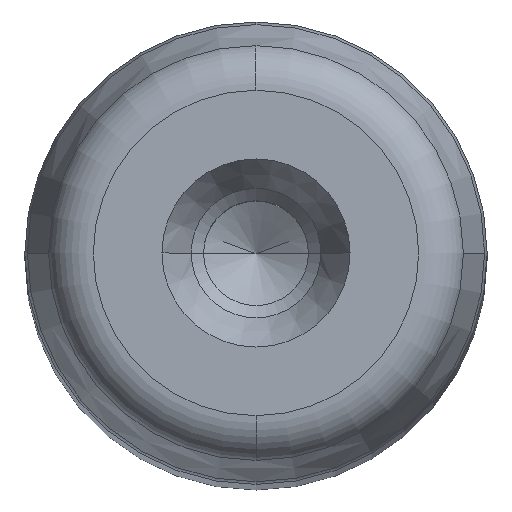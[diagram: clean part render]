
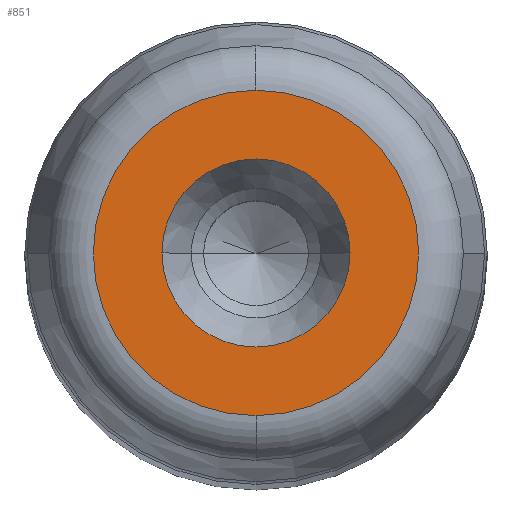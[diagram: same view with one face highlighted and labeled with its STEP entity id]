
A CAD part, top view. The second image highlights one B-rep face of the part: STEP entity #851.
In plain terms, the highlighted planar face has unit normal (0, 0, 1) as drawn and (0, 1, 0) by its records, which use the part's own axes.
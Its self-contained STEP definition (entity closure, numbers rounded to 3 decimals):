
#281=CARTESIAN_POINT('',(6.1,220.0,0.0));
#282=VERTEX_POINT('',#281);
#289=CARTESIAN_POINT('',(-6.1,220.0,0.));
#290=VERTEX_POINT('',#289);
#291=CARTESIAN_POINT('',(0.0,220.0,0.0));
#292=DIRECTION('',(0.0,1.0,0.0));
#293=DIRECTION('',(1.0,0.0,0.0));
#294=AXIS2_PLACEMENT_3D('',#291,#292,#293);
#295=CIRCLE('',#294,6.1);
#296=EDGE_CURVE('',#282,#290,#295,.T.);
#313=CARTESIAN_POINT('',(0.0,220.0,10.554));
#314=VERTEX_POINT('',#313);
#324=CARTESIAN_POINT('',(0.,220.0,-10.554));
#325=VERTEX_POINT('',#324);
#326=CARTESIAN_POINT('',(0.0,220.0,0.0));
#327=DIRECTION('',(0.0,1.0,0.0));
#328=DIRECTION('',(1.0,0.0,0.0));
#329=AXIS2_PLACEMENT_3D('',#326,#327,#328);
#330=CIRCLE('',#329,10.554);
#331=EDGE_CURVE('',#325,#314,#330,.T.);
#812=CARTESIAN_POINT('',(10.554,220.0,0.0));
#813=VERTEX_POINT('',#812);
#814=CARTESIAN_POINT('',(0.0,220.0,0.0));
#815=DIRECTION('',(0.0,1.0,0.0));
#816=DIRECTION('',(1.0,0.0,0.0));
#817=AXIS2_PLACEMENT_3D('',#814,#815,#816);
#818=CIRCLE('',#817,10.554);
#819=EDGE_CURVE('',#813,#325,#818,.T.);
#821=CARTESIAN_POINT('',(0.0,220.0,0.0));
#822=DIRECTION('',(0.0,1.0,0.0));
#823=DIRECTION('',(1.0,0.0,0.0));
#824=AXIS2_PLACEMENT_3D('',#821,#822,#823);
#825=CIRCLE('',#824,10.554);
#826=EDGE_CURVE('',#314,#813,#825,.T.);
#831=CARTESIAN_POINT('',(-11.61,220.0,-11.61));
#832=DIRECTION('',(0.0,1.0,0.0));
#833=DIRECTION('',(0.0,0.0,1.0));
#834=AXIS2_PLACEMENT_3D('',#831,#832,#833);
#835=PLANE('',#834);
#836=ORIENTED_EDGE('',*,*,#819,.T.);
#837=ORIENTED_EDGE('',*,*,#331,.T.);
#838=ORIENTED_EDGE('',*,*,#826,.T.);
#839=EDGE_LOOP('',(#836,#837,#838));
#840=FACE_OUTER_BOUND('',#839,.T.);
#841=ORIENTED_EDGE('',*,*,#296,.F.);
#842=CARTESIAN_POINT('',(0.0,220.0,0.0));
#843=DIRECTION('',(0.0,1.0,0.0));
#844=DIRECTION('',(1.0,0.0,0.0));
#845=AXIS2_PLACEMENT_3D('',#842,#843,#844);
#846=CIRCLE('',#845,6.1);
#847=EDGE_CURVE('',#290,#282,#846,.T.);
#848=ORIENTED_EDGE('',*,*,#847,.F.);
#849=EDGE_LOOP('',(#841,#848));
#850=FACE_BOUND('',#849,.T.);
#851=ADVANCED_FACE('',(#840,#850),#835,.T.);
